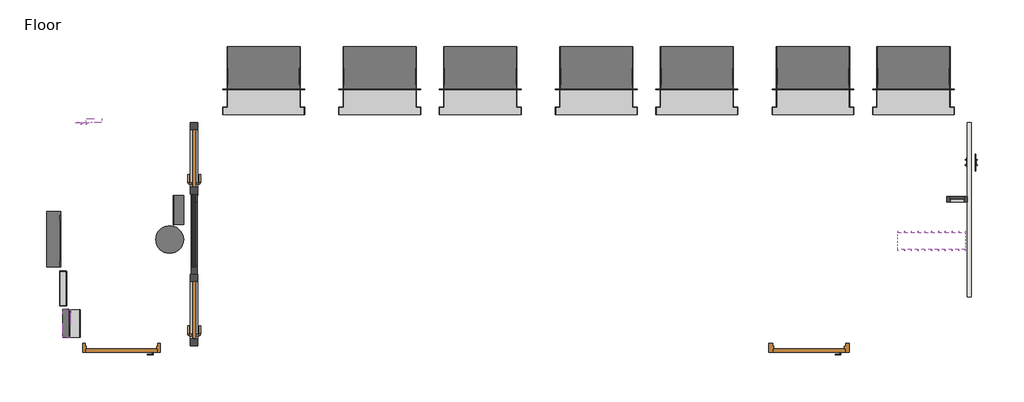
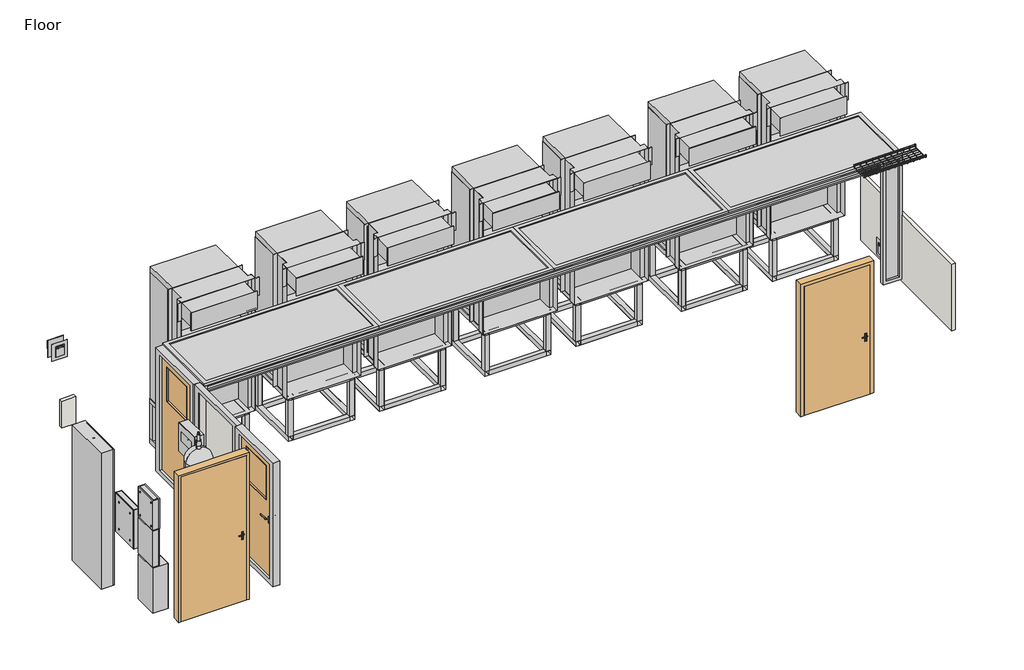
# One storey, incomplete: 15 proxies, 6 doors, 3 walls, 1 alarm, 1 beam, 1 cable carrier fitting.
"""IFC4 building model written with IfcOpenShell, lengths in millimetres."""

from ifc_helpers import new_model, si_unit, frame, origin, place, context, project, spatial, polyline, outline, extrude, transform, mapped, element, save
from components import cylinder_16_cylinder_16_0544394a, beam_d660065f, electrical_equipment_a8f8fa65, electrical_equipment_4029a089, cp_100_control_panel_b2211e8d, e2m_access_control_panel_7de66e6e, fire_alarm_control_panel_5a65a3f3, generator_annunciator_panel_f71a6436, i_line_power_distribution_panel_board_enclosure_cbae9e6e, type_1_0d3d00d8, type_1_7764bf48, standard_eb973696, standard_4633cee2, door_f1603644, door_7bdfcd05, door_5ed18baa, door_7bd5bdad, default_978da207, higher_width_cb545d14, walls_1_walls_2_56729b8b

model = new_model("IFC4")

# Units and contexts
model_context = context("Model", 3, world=origin())
ifc_project = project(units=[si_unit("LENGTHUNIT", "METRE", prefix="MILLI")], contexts=[model_context])

# Site, building, storey
site = spatial("IfcSite", under=ifc_project)
building = spatial("IfcBuilding", under=site)
storey = spatial("IfcBuildingStorey", under=building, Name="Floor", Elevation=387.0)

# Alarm
placement = place(None, origin())
cylinder_16_cylinder_16_shape = cylinder_16_cylinder_16_0544394a(model_context)
element("IfcAlarm", 1, ObjectType="Cylinder_16 : Cylinder_16", at=placement, inside=storey, context=model_context, shape_type="MappedRepresentation", body=[
    mapped(cylinder_16_cylinder_16_shape, transform((7942.8013225, 2075.7486924, 387.0), x_axis=(1.0, 0.0, 0.0), y_axis=(0.0, 1.0, 0.0), z_axis=(0.0, 0.0, 1.0))),
])

# Beam
beam_shape = beam_d660065f(model_context)
element("IfcBeam", 2, ObjectType="Inside containment only config-5 : Inside containment only config-5", at=placement, inside=storey, context=model_context, shape_type="MappedRepresentation", body=[
    mapped(beam_shape, transform((5652.957867, 2542.7295402, -34.9090286), x_axis=(1.0, 0.0, 0.0), y_axis=(0.0, 1.0, 0.0), z_axis=(0.0, 0.0, 1.0))),
])

# Proxies
electrical_equipment_shape = electrical_equipment_a8f8fa65(model_context)
element("IfcBuildingElementProxy", 3, Name="Distribution_Socket_Single_rotated : Distribution_Socket_Single_rotated", ObjectType="Distribution_Socket_Single_rotated : Distribution_Socket_Single_rotated", at=placement, inside=storey, context=model_context, shape_type="MappedRepresentation", body=[
    mapped(electrical_equipment_shape, transform((19664.4536405, 3204.622614, 532.4620152), x_axis=(0.0, 1.0, 0.0), y_axis=(-1.0, 0.0, 0.0), z_axis=(0.0, 0.0, 1.0))),
])
electrical_equipment_2_shape = electrical_equipment_4029a089(model_context)
element("IfcBuildingElementProxy", 4, Name="Distribution_Socket_Single_rotated : Distribution_Socket_Single_rotated", ObjectType="Distribution_Socket_Single_rotated : Distribution_Socket_Single_rotated", at=placement, inside=storey, context=model_context, shape_type="MappedRepresentation", body=[
    mapped(electrical_equipment_2_shape, transform((6689.0744479, 3845.6498207, 2987.7717259), x_axis=(1.0, 0.0, 0.0), y_axis=(0.0, 1.0, 0.0), z_axis=(0.0, 0.0, 1.0))),
])
cp_100_control_panel_shape = cp_100_control_panel_b2211e8d(model_context)
element("IfcBuildingElementProxy", 5, Name="CP-100_Control_Panel_Wallmount_with_3inch_Strut_BIM_Model : CP-100 Control panel", ObjectType="CP-100_Control_Panel_Wallmount_with_3inch_Strut_BIM_Model : CP-100 Control panel", at=placement, inside=storey, context=model_context, shape_type="MappedRepresentation", body=[
    mapped(cp_100_control_panel_shape, transform((6031.0111624, 972.5202398, 57.4290446), x_axis=(0.0, -1.0, 0.0), y_axis=(1.0, 0.0, 0.0), z_axis=(0.0, 0.0, 1.0))),
])
e2m_access_control_panel_shape = e2m_access_control_panel_7de66e6e(model_context)
element("IfcBuildingElementProxy", 6, Name="E2M_Access_Control_Panel_Wallmount_with_3inch_Strut_BIM_Model : E2M-Access Control Panel", ObjectType="E2M_Access_Control_Panel_Wallmount_with_3inch_Strut_BIM_Model : E2M-Access Control Panel", at=placement, inside=storey, context=model_context, shape_type="MappedRepresentation", body=[
    mapped(e2m_access_control_panel_shape, transform((6051.5094952, 847.5202398, 839.7496328), x_axis=(0.0, -1.0, 0.0), y_axis=(1.0, 0.0, 0.0), z_axis=(0.0, 0.0, 1.0))),
])
fire_alarm_control_panel_shape = fire_alarm_control_panel_5a65a3f3(model_context)
element("IfcBuildingElementProxy", 7, Name="Fire_Alarm_Control_Panel_Wallmount_with_3inch_Strut_BIM_Model : Fire Alarm Control Panel", ObjectType="Fire_Alarm_Control_Panel_Wallmount_with_3inch_Strut_BIM_Model : Fire Alarm Control Panel", at=placement, inside=storey, context=model_context, shape_type="MappedRepresentation", body=[
    mapped(fire_alarm_control_panel_shape, transform((8294.7867653, 2382.7905067, 1006.0), x_axis=(0.0, 1.0, 0.0), y_axis=(-1.0, 0.0, 0.0), z_axis=(0.0, 0.0, 1.0))),
])
generator_annunciator_panel_shape = generator_annunciator_panel_f71a6436(model_context)
element("IfcBuildingElementProxy", 8, Name="Generator_Annunciator_Panel_Wallmount_with_3inch_Strut_BIM_Model : Generator Annunciator Panel", ObjectType="Generator_Annunciator_Panel_Wallmount_with_3inch_Strut_BIM_Model : Generator Annunciator Panel", at=placement, inside=storey, context=model_context, shape_type="MappedRepresentation", body=[
    mapped(generator_annunciator_panel_shape, transform((6047.5094952, 972.5202398, 842.4068986), x_axis=(0.0, -1.0, 0.0), y_axis=(1.0, 0.0, 0.0), z_axis=(0.0, 0.0, 1.0))),
])
i_line_power_distribution_panel_board_enclosure_shape = i_line_power_distribution_panel_board_enclosure_cbae9e6e(model_context)
element("IfcBuildingElementProxy", 9, Name="I-Line_Power_Distribution_Panel_Board_Enclosure_MDP-100_BIM_Model : I-Line Power Distribution Panel Board Enclosure", ObjectType="I-Line_Power_Distribution_Panel_Board_Enclosure_MDP-100_BIM_Model : I-Line Power Distribution Panel Board Enclosure", at=placement, inside=storey, context=model_context, shape_type="MappedRepresentation", body=[
    mapped(i_line_power_distribution_panel_board_enclosure_shape, transform((6248.009213, 2083.6606565, 387.0), x_axis=(0.0, 1.0, 0.0), y_axis=(-1.0, 0.0, 0.0), z_axis=(0.0, 0.0, 1.0))),
])
type_1_shape = type_1_0d3d00d8(model_context)
element("IfcBuildingElementProxy", 10, Name="PDB-200 - 208V_OR_120V_Distribution_Panel_Wallmount_BIM_Model : Type 1", ObjectType="PDB-200 - 208V_OR_120V_Distribution_Panel_Wallmount_BIM_Model : Type 1", at=placement, inside=storey, context=model_context, shape_type="MappedRepresentation", body=[
    mapped(type_1_shape, transform((6050.4534158, 1359.3521604, 346.3698381), x_axis=(0.0, -1.0, 0.0), y_axis=(1.0, 0.0, 0.0), z_axis=(0.0, 0.0, 1.0))),
])
type_1_2_shape = type_1_7764bf48(model_context)
element("IfcBuildingElementProxy", 11, Name="Uniflair_WMF0661_with_wallmountframe_and_Floorstand_BIM_Model : Type 1", ObjectType="Uniflair_WMF0661_with_wallmountframe_and_Floorstand_BIM_Model : Type 1", at=placement, inside=storey, context=model_context, shape_type="MappedRepresentation", body=[
    mapped(type_1_2_shape, transform((9317.1218433, 3860.1554907, -1.0), x_axis=(1.0, 0.0, 0.0), y_axis=(0.0, 1.0, 0.0), z_axis=(0.0, 0.0, 1.0))),
])
element("IfcBuildingElementProxy", 12, Name="Uniflair_WMF0661_with_wallmountframe_and_Floorstand_BIM_Model : Type 1", ObjectType="Uniflair_WMF0661_with_wallmountframe_and_Floorstand_BIM_Model : Type 1", at=placement, inside=storey, context=model_context, shape_type="MappedRepresentation", body=[
    mapped(type_1_2_shape, transform((11014.8368823, 3860.1554907, -1.0), x_axis=(1.0, 0.0, 0.0), y_axis=(0.0, 1.0, 0.0), z_axis=(0.0, 0.0, 1.0))),
])
element("IfcBuildingElementProxy", 13, Name="Uniflair_WMF0661_with_wallmountframe_and_Floorstand_BIM_Model : Type 1", ObjectType="Uniflair_WMF0661_with_wallmountframe_and_Floorstand_BIM_Model : Type 1", at=placement, inside=storey, context=model_context, shape_type="MappedRepresentation", body=[
    mapped(type_1_2_shape, transform((12483.9262052, 3860.1554907, -1.0), x_axis=(1.0, 0.0, 0.0), y_axis=(0.0, 1.0, 0.0), z_axis=(0.0, 0.0, 1.0))),
])
element("IfcBuildingElementProxy", 14, Name="Uniflair_WMF0661_with_wallmountframe_and_Floorstand_BIM_Model : Type 1", ObjectType="Uniflair_WMF0661_with_wallmountframe_and_Floorstand_BIM_Model : Type 1", at=placement, inside=storey, context=model_context, shape_type="MappedRepresentation", body=[
    mapped(type_1_2_shape, transform((14181.6283862, 3860.1554907, -1.0), x_axis=(1.0, 0.0, 0.0), y_axis=(0.0, 1.0, 0.0), z_axis=(0.0, 0.0, 1.0))),
])
element("IfcBuildingElementProxy", 15, Name="Uniflair_WMF0661_with_wallmountframe_and_Floorstand_BIM_Model : Type 1", ObjectType="Uniflair_WMF0661_with_wallmountframe_and_Floorstand_BIM_Model : Type 1", at=placement, inside=storey, context=model_context, shape_type="MappedRepresentation", body=[
    mapped(type_1_2_shape, transform((15650.7347013, 3860.1554907, -1.0), x_axis=(1.0, 0.0, 0.0), y_axis=(0.0, 1.0, 0.0), z_axis=(0.0, 0.0, 1.0))),
])
element("IfcBuildingElementProxy", 16, Name="Uniflair_WMF0661_with_wallmountframe_and_Floorstand_BIM_Model : Type 1", ObjectType="Uniflair_WMF0661_with_wallmountframe_and_Floorstand_BIM_Model : Type 1", at=placement, inside=storey, context=model_context, shape_type="MappedRepresentation", body=[
    mapped(type_1_2_shape, transform((17348.4198901, 3860.1554907, -1.0), x_axis=(1.0, 0.0, 0.0), y_axis=(0.0, 1.0, 0.0), z_axis=(0.0, 0.0, 1.0))),
])
element("IfcBuildingElementProxy", 17, Name="Uniflair_WMF0661_with_wallmountframe_and_Floorstand_BIM_Model : Type 1", ObjectType="Uniflair_WMF0661_with_wallmountframe_and_Floorstand_BIM_Model : Type 1", at=placement, inside=storey, context=model_context, shape_type="MappedRepresentation", body=[
    mapped(type_1_2_shape, transform((18817.5262052, 3860.1554907, -1.0), x_axis=(1.0, 0.0, 0.0), y_axis=(0.0, 1.0, 0.0), z_axis=(0.0, 0.0, 1.0))),
])

# Cable carrier fitting
standard_shape = standard_eb973696(model_context)
standard_2_shape = standard_4633cee2(model_context)
element("IfcCableCarrierFitting", 18, ObjectType="CableTray_Atkore-Straight-Length : Standard", at=placement, inside=storey, context=model_context, shape_type="MappedRepresentation", body=[
    mapped(standard_shape, transform((18585.9556405, 2054.565867, 2928.5), x_axis=(1.0, 0.0, 0.0), y_axis=(0.0, 1.0, 0.0), z_axis=(0.0, 0.0, 1.0))),
    mapped(standard_2_shape, transform((18585.9556405, 2054.565867, 2928.5), x_axis=(1.0, 0.0, 0.0), y_axis=(0.0, 1.0, 0.0), z_axis=(0.0, 0.0, 1.0))),
])

# Doors
door_shape = door_f1603644(model_context)
element("IfcDoor", 19, ObjectType="DoorPanel_Steel_Republic_F : DoorPanel_Steel_Republic_F", at=placement, inside=storey, context=model_context, shape_type="MappedRepresentation", body=[
    mapped(door_shape, transform((17290.854026, 451.0740616, 387.5), x_axis=(-1.0, 0.0, 0.0), y_axis=(0.0, -1.0, 0.0), z_axis=(0.0, 0.0, 1.0))),
])
door_2_shape = door_7bdfcd05(model_context)
element("IfcDoor", 20, ObjectType="DoorPanel_Steel_Republic_F : DoorPanel_Steel_Republic_F", at=placement, inside=storey, context=model_context, shape_type="MappedRepresentation", body=[
    mapped(door_2_shape, transform((7238.8778487, 451.0740616, 387.5), x_axis=(-1.0, 0.0, 0.0), y_axis=(0.0, -1.0, 0.0), z_axis=(0.0, 0.0, 1.0))),
])
door_3_shape = door_5ed18baa(model_context)
element("IfcDoor", 21, ObjectType="Door_Steel_Republic_Single-DoubleRabbet-Equal : ByType", at=placement, inside=storey, context=model_context, shape_type="MappedRepresentation", body=[
    mapped(door_3_shape, transform((18872.9447228, -368.7919822, 387.5), x_axis=(-1.0, 0.0, 0.0), y_axis=(0.0, -1.0, 0.0), z_axis=(0.0, 0.0, 1.0))),
])
door_4_shape = door_7bd5bdad(model_context)
element("IfcDoor", 22, ObjectType="Door_Steel_Republic_Single-DoubleRabbet-Equal : ByType", at=placement, inside=storey, context=model_context, shape_type="MappedRepresentation", body=[
    mapped(door_4_shape, transform((8820.9685454, -368.7919822, 387.5), x_axis=(-1.0, 0.0, 0.0), y_axis=(0.0, -1.0, 0.0), z_axis=(0.0, 0.0, 1.0))),
])
default_shape = default_978da207(model_context)
element("IfcDoor", 23, ObjectType="Panel_FIN_40D_Rebated_Glazed_05 : default", at=placement, inside=storey, context=model_context, shape_type="MappedRepresentation", body=[
    mapped(default_shape, transform((8320.9937562, 3263.5201437, 417.0), x_axis=(0.0, 1.0, 0.0), y_axis=(-1.0, 0.0, 0.0), z_axis=(0.0, 0.0, 1.0))),
])
higher_width_shape = higher_width_cb545d14(model_context)
element("IfcDoor", 24, ObjectType="Panel_FIN_40D_Rebated_Glazed_05 : higher width", at=placement, inside=storey, context=model_context, shape_type="MappedRepresentation", body=[
    mapped(higher_width_shape, transform((8320.9937562, 1045.615995, 417.0), x_axis=(0.0, 1.0, 0.0), y_axis=(-1.0, 0.0, 0.0), z_axis=(0.0, 0.0, 1.0))),
])

# Walls
element("IfcWall", 25, ObjectType="Generic - 100mm 2", at=placement, inside=storey, context=model_context, shape_type="SweptSolid", body=[
    extrude(outline(polyline([(6949.7176405, 3788.4110044), (6724.7176405, 3788.4110044), (6724.7176405, 3845.4110044), (6949.7176405, 3845.4110044), (6949.7176405, 3788.4110044)])), frame((0.0, 0.0, 1652.1255731), z_axis=(0.0, 0.0, 1.0), x_axis=(1.0, 0.0, 0.0)), (0.0, 0.0, 1.0), 456.3181732),
])
element("IfcWall", 26, ObjectType="Generic - 100mm 2", at=placement, inside=storey, context=model_context, shape_type="SweptSolid", body=[
    extrude(outline(polyline([(19606.9536405, 1238.3420792), (19606.9536405, 3788.4110044), (19663.9536405, 3788.4110044), (19663.9536405, 1238.3420792), (19606.9536405, 1238.3420792)])), frame((0.0, 0.0, 347.0538619), z_axis=(0.0, 0.0, 1.0), x_axis=(1.0, 0.0, 0.0)), (0.0, 0.0, 1.0), 1131.9368971),
])
walls_1_walls_2_shape = walls_1_walls_2_56729b8b(model_context)
element("IfcWall", 27, ObjectType="Walls 1 : Walls 2", at=placement, inside=storey, context=model_context, shape_type="MappedRepresentation", body=[
    mapped(walls_1_walls_2_shape, transform((-5.9327067, 0.0, 0.0), x_axis=(1.0, 0.0, 0.0), y_axis=(0.0, 1.0, 0.0), z_axis=(0.0, 0.0, 1.0))),
])

save(model, "model.ifc")
